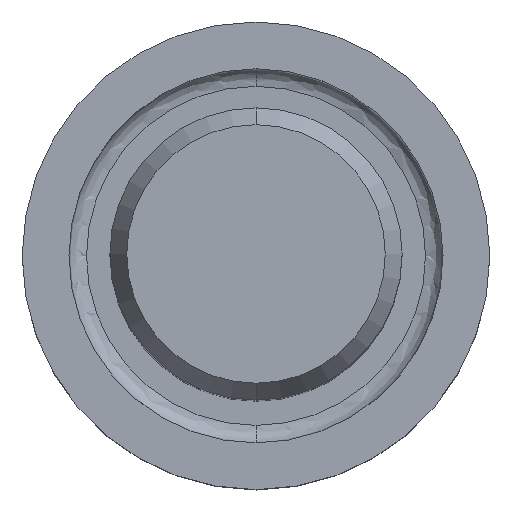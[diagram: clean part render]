
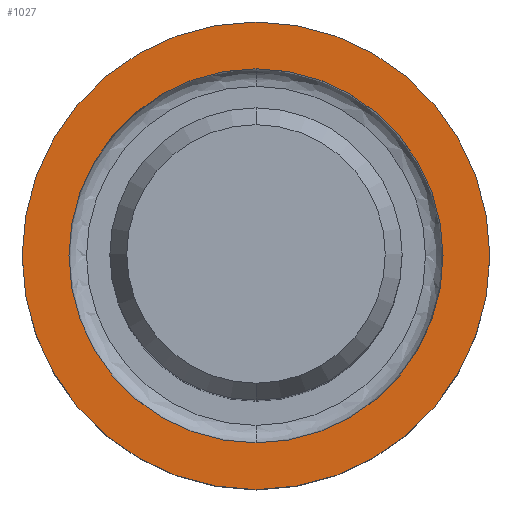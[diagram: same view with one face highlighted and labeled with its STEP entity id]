
A CAD part, top view. The second image highlights one B-rep face of the part: STEP entity #1027.
In plain terms, the highlighted free-form (B-spline) face has degree [1, 1] with [2, 2] control points.
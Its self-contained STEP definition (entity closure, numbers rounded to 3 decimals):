
#146=CARTESIAN_POINT('',(0.,0.,-90.));
#147=DIRECTION('',(0.,0.,-1.));
#148=DIRECTION('',(0.,-1.,0.));
#149=AXIS2_PLACEMENT_3D('',#146,#147,#148);
#151=CARTESIAN_POINT('',(0.,0.,-90.));
#152=DIRECTION('',(0.,0.,1.));
#153=DIRECTION('',(0.,-1.,0.));
#154=AXIS2_PLACEMENT_3D('',#151,#152,#153);
#156=CARTESIAN_POINT('',(0.,0.,-90.));
#157=DIRECTION('',(0.,0.,1.));
#158=DIRECTION('',(0.,1.,0.));
#159=AXIS2_PLACEMENT_3D('',#156,#157,#158);
#161=CARTESIAN_POINT('',(0.,0.,-90.));
#162=DIRECTION('',(0.,0.,1.));
#163=DIRECTION('',(0.,-1.,0.));
#164=AXIS2_PLACEMENT_3D('',#161,#162,#163);
#261=CARTESIAN_POINT('',(0.,20.,-90.));
#263=VERTEX_POINT('',#261);
#265=CARTESIAN_POINT('',(0.,-20.,-90.));
#267=VERTEX_POINT('',#265);
#289=CARTESIAN_POINT('',(0.,16.,-90.));
#290=CARTESIAN_POINT('',(0.,-16.,-90.));
#291=VERTEX_POINT('',#289);
#292=VERTEX_POINT('',#290);
#1011=CARTESIAN_POINT('',(20.802,20.8,-90.));
#1012=CARTESIAN_POINT('',(-20.802,20.8,-90.));
#1013=CARTESIAN_POINT('',(20.802,-20.8,-90.));
#1014=CARTESIAN_POINT('',(-20.802,-20.8,-90.));
#1015=B_SPLINE_SURFACE_WITH_KNOTS('',1,1,((#1011,#1012),(#1013,#1014)),
.UNSPECIFIED.,.F.,.F.,.F.,(2,2),(2,2),(-20.8,20.8),(-20.802,
20.802),.UNSPECIFIED.);
#1017=ORIENTED_EDGE('',*,*,#1016,.T.);
#1019=ORIENTED_EDGE('',*,*,#1018,.F.);
#1020=EDGE_LOOP('',(#1017,#1019));
#1021=FACE_OUTER_BOUND('',#1020,.F.);
#1022=ORIENTED_EDGE('',*,*,#994,.T.);
#1024=ORIENTED_EDGE('',*,*,#1023,.T.);
#1025=EDGE_LOOP('',(#1022,#1024));
#1026=FACE_BOUND('',#1025,.F.);
#150=CIRCLE('',#149,20.);
#155=CIRCLE('',#154,20.);
#160=CIRCLE('',#159,16.);
#165=CIRCLE('',#164,16.);
#994=EDGE_CURVE('',#291,#292,#160,.T.);
#1016=EDGE_CURVE('',#267,#263,#150,.T.);
#1018=EDGE_CURVE('',#267,#263,#155,.T.);
#1023=EDGE_CURVE('',#292,#291,#165,.T.);
#1027=ADVANCED_FACE('',(#1021,#1026),#1015,.F.);
